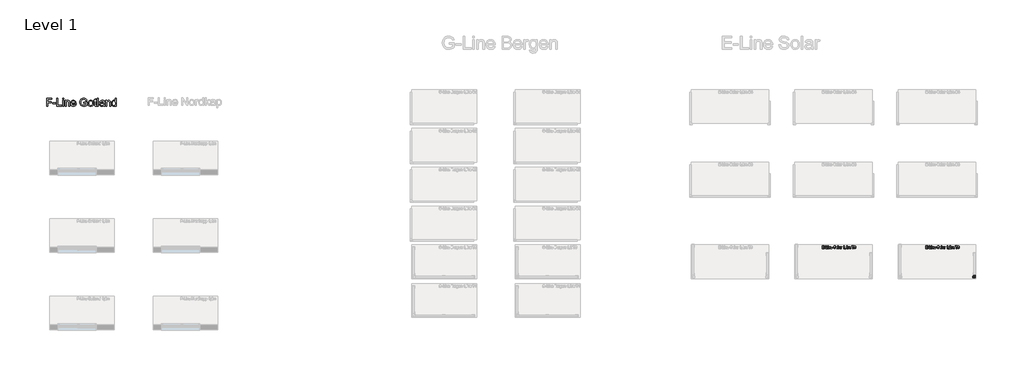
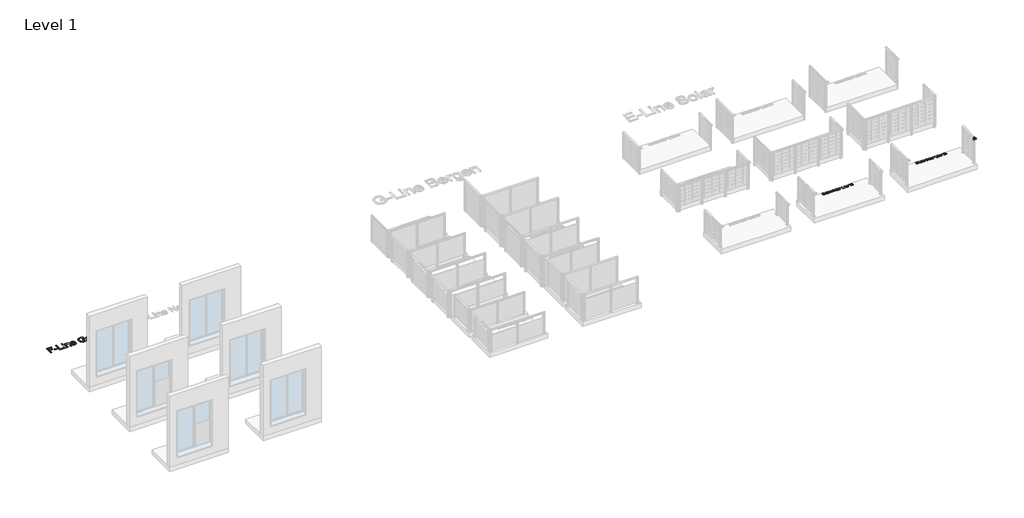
# One storey, part 55 of 66: 4 proxies.
"""IFC4 building model written with IfcOpenShell, lengths in millimetres."""

from ifc_helpers import new_model, si_unit, origin, origin_with_axes, place, context, project, spatial, polyline, outline, extrude, transform, mapped, element, save
from components import generic_models_b718ed85

model = new_model("IFC4")

# Units and contexts
model_context = context("Model", 3, world=origin())
ifc_project = project(units=[si_unit("LENGTHUNIT", "METRE", prefix="MILLI")], contexts=[model_context])

# Site, building, storey
site = spatial("IfcSite", under=ifc_project)
building = spatial("IfcBuilding", under=site)
storey = spatial("IfcBuildingStorey", under=building, Name="Level 1", Elevation=0.0)

# Proxies
placement = place(None, origin())
generic_models_shape = generic_models_b718ed85(model_context)
element("IfcBuildingElementProxy", 1, Name="Innore top rail 51x43 corner element : Innore top rail 51x43 element", ObjectType="Innore top rail 51x43 corner element : Innore top rail 51x43 element", at=placement, inside=storey, context=model_context, shape_type="MappedRepresentation", body=[
    mapped(generic_models_shape, transform((26236.5263105, -2920.1018151, 1200.0), x_axis=(0.0, -1.0, 0.0), y_axis=(1.0, 0.0, 0.0), z_axis=(0.0, 0.0, 1.0))),
])
element("IfcBuildingElementProxy", 2, Name="100mm Arial", ObjectType="100mm Arial", at=placement, inside=storey, context=model_context, shape_type="SweptSolid", body=[
    extrude(outline(polyline([(24354.036482, -1821.1184021), (24354.036482, -1720.6620919), (24426.2394549, -1720.6620919), (24426.2394549, -1733.2191307), (24366.5935207, -1733.2191307), (24366.5935207, -1763.0420978), (24423.1001952, -1763.0420978), (24423.1001952, -1775.5991365), (24366.5935207, -1775.5991365), (24366.5935207, -1808.5613633), (24427.8090847, -1808.5613633), (24427.8090847, -1821.1184021), (24354.036482, -1821.1184021)])), origin_with_axes(), (0.0, 0.0, 1.0), 10.0),
    extrude(outline(polyline([(24438.7964936, -1791.295435), (24438.7964936, -1778.7383962), (24478.0372398, -1778.7383962), (24478.0372398, -1791.295435), (24438.7964936, -1791.295435)])), origin_with_axes(), (0.0, 0.0, 1.0), 10.0),
    extrude(outline(polyline([(24493.7335383, -1821.1184021), (24493.7335383, -1720.6620919), (24506.290577, -1720.6620919), (24506.290577, -1808.5613633), (24556.5187321, -1808.5613633), (24556.5187321, -1821.1184021), (24493.7335383, -1821.1184021)])), origin_with_axes(), (0.0, 0.0, 1.0), 10.0),
    extrude(outline(polyline([(24569.0757709, -1733.2191307), (24569.0757709, -1720.6620919), (24581.6328096, -1720.6620919), (24581.6328096, -1733.2191307), (24569.0757709, -1733.2191307)])), origin_with_axes(), (0.0, 0.0, 1.0), 10.0),
    extrude(outline(polyline([(24569.0757709, -1821.1184021), (24569.0757709, -1747.3457993), (24581.6328096, -1747.3457993), (24581.6328096, -1821.1184021), (24569.0757709, -1821.1184021)])), origin_with_axes(), (0.0, 0.0, 1.0), 10.0),
    extrude(outline(polyline([(24600.4683678, -1821.1184021), (24600.4683678, -1747.3457993), (24613.0254066, -1747.3457993), (24613.0254066, -1757.6464952), (24622.6271266, -1748.7437509), (24635.7359884, -1745.7761695), (24647.5940514, -1748.1674024), (24655.6874553, -1754.4459218), (24659.4521144, -1763.6797599), (24660.1143019, -1775.8198657), (24660.1143019, -1821.1184021), (24647.5572632, -1821.1184021), (24647.5572632, -1777.5121229), (24646.1102607, -1766.4020867), (24640.9967009, -1760.5282375), (24632.3759995, -1758.3332082), (24618.752103, -1763.262827), (24614.4570807, -1770.405869), (24613.0254066, -1781.9757578), (24613.0254066, -1821.1184021), (24600.4683678, -1821.1184021)])), origin_with_axes(), (0.0, 0.0, 1.0), 10.0),
    extrude(outline(polyline([(24729.0308624, -1799.1435842), (24741.3426465, -1800.7132141), (24736.9066028, -1809.9899717), (24729.82794, -1816.9245473), (24720.2660738, -1821.2471608), (24708.3804197, -1822.6880319), (24693.6467458, -1820.2017628), (24682.309849, -1812.7429553), (24675.0809678, -1800.7959875), (24672.6713407, -1784.8452374), (24675.1054932, -1768.3579926), (24682.4079508, -1756.0278144), (24693.5915635, -1748.3390807), (24707.6691812, -1745.7761695), (24721.3084062, -1748.3329493), (24732.2069103, -1756.0032889), (24739.353018, -1768.3089417), (24741.7350539, -1784.771661), (24741.6614775, -1788.1561753), (24685.2283795, -1788.1561753), (24687.4019489, -1797.5555603), (24692.4511293, -1804.4656104), (24699.7382585, -1808.7146475), (24708.6256744, -1810.1309932), (24720.9374585, -1807.5067683), (24729.0308624, -1799.1435842)]), holes=[polyline([(24685.2283795, -1775.5991365), (24729.1780152, -1775.5991365), (24724.1502946, -1764.2193202), (24716.8294429, -1759.8047362), (24707.6201303, -1758.3332082), (24692.1568237, -1763.029835), (24687.2915843, -1768.5204738), (24685.2283795, -1775.5991365)])]), origin_with_axes(), (0.0, 0.0, 1.0), 10.0),
    extrude(outline(polyline([(24790.3935792, -1786.5865455), (24802.9506179, -1786.5865455), (24806.9973199, -1799.155847), (24816.8810828, -1807.1020981), (24831.9397192, -1810.1309932), (24845.0608437, -1807.8378621), (24853.5343923, -1801.5348172), (24856.3180327, -1793.1103195), (24854.2333681, -1785.274433), (24845.6985058, -1779.5722621), (24827.4147706, -1774.7775334), (24807.7330839, -1768.5848532), (24797.0522433, -1759.2406505), (24793.5328389, -1746.7571881), (24797.8861091, -1732.5446804), (24810.6025634, -1722.5137646), (24829.2173924, -1719.0924621), (24849.0830201, -1722.6731802), (24862.326772, -1733.1946052), (24867.3054416, -1748.9154292), (24854.7484029, -1748.9154292), (24852.443009, -1741.4228992), (24847.6360176, -1736.0150339), (24829.7079017, -1731.6495009), (24811.7307349, -1735.9659829), (24806.0898776, -1746.3893061), (24810.0875286, -1755.0958467), (24830.5908185, -1762.1101301), (24852.810891, -1768.4131749), (24864.9632596, -1778.5912434), (24868.8750715, -1792.7914885), (24864.3746484, -1807.8133366), (24851.4252022, -1818.77622), (24832.4302285, -1822.6880319), (24810.0016895, -1818.4696517), (24795.8137072, -1805.7654601), (24790.3935792, -1786.5865455)])), origin_with_axes(), (0.0, 0.0, 1.0), 10.0),
    extrude(outline(polyline([(24883.0017401, -1784.2321007), (24885.7179355, -1766.4450062), (24893.8665217, -1753.9431498), (24903.9342256, -1747.8179145), (24915.9884923, -1745.7761695), (24929.1801275, -1748.2624386), (24939.716881, -1755.7212461), (24946.6238655, -1767.5639806), (24948.9261936, -1783.2020311), (24944.8549662, -1805.544731), (24932.9969032, -1818.1876089), (24915.9884923, -1822.6880319), (24902.6374416, -1820.2109598), (24892.1129508, -1812.7797435), (24885.2795428, -1800.6886886), (24883.0017401, -1784.2321007)]), holes=[polyline([(24895.5587789, -1784.2075752), (24897.0119127, -1795.5720632), (24901.3713144, -1803.6685328), (24907.9318766, -1808.5153781), (24915.9884923, -1810.1309932), (24924.0083198, -1808.506181), (24930.5566193, -1803.6317446), (24934.916021, -1795.4279761), (24936.3691549, -1783.8151678), (24934.9068239, -1772.7817736), (24930.5198311, -1764.7956686), (24923.9623346, -1759.9488233), (24915.9884923, -1758.3332082), (24907.9318766, -1759.942692), (24901.3713144, -1764.7711432), (24897.0119127, -1772.8492186), (24895.5587789, -1784.2075752)])]), origin_with_axes(), (0.0, 0.0, 1.0), 10.0),
    extrude(outline(polyline([(24963.0528622, -1821.1184021), (24963.0528622, -1720.6620919), (24975.609901, -1720.6620919), (24975.609901, -1821.1184021), (24963.0528622, -1821.1184021)])), origin_with_axes(), (0.0, 0.0, 1.0), 10.0),
    extrude(outline(polyline([(25041.5343545, -1811.700623), (25029.3574605, -1820.2109598), (25015.9052422, -1822.6880319), (25005.4114083, -1821.1981098), (24997.670558, -1816.7283436), (24992.8972891, -1809.9409208), (24991.3061995, -1801.498029), (24993.7096952, -1791.5652151), (25000.0250028, -1784.354728), (25008.8173824, -1780.2344497), (25019.682164, -1778.3459888), (25041.4607781, -1774.0295067), (25041.5343545, -1771.2336035), (25038.0762638, -1761.9629773), (25024.1948498, -1758.3332082), (25011.4906583, -1760.7489667), (25005.4328681, -1769.3206172), (24992.8758293, -1767.7509873), (24998.3082201, -1755.4882541), (25009.2465781, -1748.3022925), (25025.8135306, -1745.7761695), (25041.0315825, -1748.0079869), (25049.6277584, -1753.612056), (25053.4782567, -1762.1346555), (25054.0913933, -1773.1220644), (25054.0913933, -1788.7447865), (25054.7290554, -1810.5601888), (25057.230653, -1821.1184021), (25044.6736142, -1821.1184021), (25041.5343545, -1811.700623)]), holes=[polyline([(25041.5343545, -1786.5865455), (25021.2763193, -1790.4370437), (25010.4728514, -1792.4726574), (25005.5800209, -1795.7835953), (25003.8632382, -1800.6151122), (25007.6033719, -1807.4086664), (25018.578518, -1810.1309932), (25031.2827096, -1807.1266235), (25039.4742154, -1799.8548228), (25041.4607781, -1790.1427381), (25041.5343545, -1786.5865455)])]), origin_with_axes(), (0.0, 0.0, 1.0), 10.0),
    extrude(outline(polyline([(25071.3573216, -1821.1184021), (25071.3573216, -1747.3457993), (25082.3447305, -1747.3457993), (25082.3447305, -1758.2596318), (25090.1438288, -1748.2041906), (25097.9919781, -1745.7761695), (25110.5980678, -1749.6511932), (25106.404213, -1760.9083822), (25097.5750451, -1758.3332082), (25090.4749226, -1760.8102803), (25085.9499741, -1767.6774109), (25083.9143604, -1782.3436398), (25083.9143604, -1821.1184021), (25071.3573216, -1821.1184021)])), origin_with_axes(), (0.0, 0.0, 1.0), 10.0),
    extrude(outline(polyline([(25201.6365988, -1821.1184021), (25189.0795601, -1821.1184021), (25189.0795601, -1742.8331135), (25177.1847089, -1751.3066621), (25163.9654825, -1757.6464952), (25163.9654825, -1745.7761695), (25182.371845, -1734.0284711), (25193.5431949, -1720.6620919), (25201.6365988, -1720.6620919), (25201.6365988, -1821.1184021)])), origin_with_axes(), (0.0, 0.0, 1.0), 10.0),
    extrude(outline(polyline([(25237.7380853, -1821.1184021), (25237.7380853, -1808.5613633), (25250.2951241, -1808.5613633), (25250.2951241, -1821.1184021), (25248.0387812, -1833.9574837), (25240.877345, -1841.5235901), (25237.7380853, -1836.8147005), (25242.348873, -1831.3945725), (25243.9920792, -1821.1184021), (25237.7380853, -1821.1184021)])), origin_with_axes(), (0.0, 0.0, 1.0), 10.0),
    extrude(outline(polyline([(25335.0551358, -1808.5613633), (25335.0551358, -1821.1184021), (25269.1306822, -1821.1184021), (25270.4795829, -1812.4609125), (25278.1070029, -1799.1313215), (25293.8278268, -1784.5754572), (25315.5083391, -1763.6552344), (25320.9284671, -1749.430464), (25315.8149074, -1737.9157575), (25302.460791, -1733.2191307), (25288.5425888, -1737.8053929), (25283.2573508, -1750.485059), (25270.7003121, -1748.9154292), (25273.7445356, -1736.769192), (25280.3265576, -1727.8971045), (25290.1030216, -1722.4708451), (25302.7305711, -1720.6620919), (25315.4500911, -1722.6731802), (25325.208161, -1728.7064449), (25331.4161697, -1737.7195538), (25333.4855059, -1748.6701745), (25331.2536885, -1760.5772884), (25323.8347349, -1772.8890725), (25305.8453053, -1790.0936872), (25291.3998057, -1802.1724793), (25285.7344229, -1808.5613633), (25335.0551358, -1808.5613633)])), origin_with_axes(), (0.0, 0.0, 1.0), 10.0),
    extrude(outline(polyline([(25350.7514342, -1821.1184021), (25350.7514342, -1747.3457993), (25363.308473, -1747.3457993), (25363.308473, -1759.4859052), (25371.9414371, -1749.5408286), (25384.2286958, -1745.7761695), (25396.81026, -1749.614405), (25403.7264415, -1760.3688219), (25413.5243653, -1749.4243326), (25425.8974631, -1745.7761695), (25435.336702, -1747.2936827), (25442.3172628, -1751.8462224), (25446.6306792, -1759.5564159), (25448.0684847, -1770.5468905), (25448.0684847, -1821.1184021), (25435.5114459, -1821.1184021), (25435.5114459, -1775.9424931), (25434.3464863, -1765.4578562), (25430.128106, -1760.2952455), (25422.9544071, -1758.3332082), (25410.6058348, -1763.3609288), (25406.9178178, -1769.903097), (25405.6884788, -1779.4741602), (25405.6884788, -1821.1184021), (25393.1314401, -1821.1184021), (25393.1314401, -1774.5445415), (25390.2251723, -1762.3799102), (25380.6970286, -1758.3332082), (25371.4018769, -1761.0310095), (25365.2214594, -1768.9282097), (25363.308473, -1783.9132696), (25363.308473, -1821.1184021), (25350.7514342, -1821.1184021)])), origin_with_axes(), (0.0, 0.0, 1.0), 10.0),
    extrude(outline(polyline([(25532.8284964, -1821.1184021), (25532.8284964, -1733.2191307), (25499.8662696, -1733.2191307), (25499.8662696, -1720.6620919), (25578.3477619, -1720.6620919), (25578.3477619, -1733.2191307), (25545.3855351, -1733.2191307), (25545.3855351, -1821.1184021), (25532.8284964, -1821.1184021)])), origin_with_axes(), (0.0, 0.0, 1.0), 10.0),
    extrude(outline(polyline([(25587.765541, -1794.4346947), (25600.3225797, -1792.8650649), (25607.251024, -1806.0842912), (25620.212733, -1810.1309932), (25628.8211716, -1808.7391729), (25635.467573, -1804.5637123), (25641.1329557, -1790.7804002), (25635.516624, -1777.7941658), (25621.2428025, -1772.6560806), (25612.4381601, -1774.0295067), (25613.8361117, -1761.4724679), (25615.8471999, -1761.6196207), (25630.0964959, -1758.0143772), (25634.8421736, -1753.4403777), (25636.4240662, -1746.9288664), (25631.837804, -1737.1064171), (25620.0165292, -1733.2191307), (25608.0481016, -1737.1432053), (25601.8922096, -1748.9154292), (25589.3351708, -1747.3457993), (25593.0323849, -1736.0702162), (25599.6113412, -1727.6518498), (25608.6121874, -1722.4095314), (25619.5750708, -1720.6620919), (25634.7195463, -1724.10792), (25645.3145478, -1733.525699), (25648.981105, -1746.1931024), (25645.4984888, -1757.7691225), (25635.1977929, -1766.0832556), (25648.8830031, -1774.6671688), (25653.6899945, -1791.0011294), (25651.2864988, -1803.2393371), (25644.0760117, -1813.4664566), (25633.192836, -1820.3826381), (25619.7712746, -1822.6880319), (25607.6311687, -1820.7198633), (25597.7474058, -1814.8153572), (25590.8741438, -1805.7838542), (25587.765541, -1794.4346947)])), origin_with_axes(), (0.0, 0.0, 1.0), 10.0),
])
element("IfcBuildingElementProxy", 3, Name="100mm Arial", ObjectType="100mm Arial", at=placement, inside=storey, context=model_context, shape_type="SweptSolid", body=[
    extrude(outline(polyline([(20354.036482, -1821.1184021), (20354.036482, -1720.6620919), (20426.2394549, -1720.6620919), (20426.2394549, -1733.2191307), (20366.5935207, -1733.2191307), (20366.5935207, -1763.0420978), (20423.1001952, -1763.0420978), (20423.1001952, -1775.5991365), (20366.5935207, -1775.5991365), (20366.5935207, -1808.5613633), (20427.8090847, -1808.5613633), (20427.8090847, -1821.1184021), (20354.036482, -1821.1184021)])), origin_with_axes(), (0.0, 0.0, 1.0), 10.0),
    extrude(outline(polyline([(20438.7964936, -1791.295435), (20438.7964936, -1778.7383962), (20478.0372398, -1778.7383962), (20478.0372398, -1791.295435), (20438.7964936, -1791.295435)])), origin_with_axes(), (0.0, 0.0, 1.0), 10.0),
    extrude(outline(polyline([(20493.7335383, -1821.1184021), (20493.7335383, -1720.6620919), (20506.290577, -1720.6620919), (20506.290577, -1808.5613633), (20556.5187321, -1808.5613633), (20556.5187321, -1821.1184021), (20493.7335383, -1821.1184021)])), origin_with_axes(), (0.0, 0.0, 1.0), 10.0),
    extrude(outline(polyline([(20569.0757709, -1733.2191307), (20569.0757709, -1720.6620919), (20581.6328096, -1720.6620919), (20581.6328096, -1733.2191307), (20569.0757709, -1733.2191307)])), origin_with_axes(), (0.0, 0.0, 1.0), 10.0),
    extrude(outline(polyline([(20569.0757709, -1821.1184021), (20569.0757709, -1747.3457993), (20581.6328096, -1747.3457993), (20581.6328096, -1821.1184021), (20569.0757709, -1821.1184021)])), origin_with_axes(), (0.0, 0.0, 1.0), 10.0),
    extrude(outline(polyline([(20600.4683678, -1821.1184021), (20600.4683678, -1747.3457993), (20613.0254066, -1747.3457993), (20613.0254066, -1757.6464952), (20622.6271266, -1748.7437509), (20635.7359884, -1745.7761695), (20647.5940514, -1748.1674024), (20655.6874553, -1754.4459218), (20659.4521144, -1763.6797599), (20660.1143019, -1775.8198657), (20660.1143019, -1821.1184021), (20647.5572632, -1821.1184021), (20647.5572632, -1777.5121229), (20646.1102607, -1766.4020867), (20640.9967009, -1760.5282375), (20632.3759995, -1758.3332082), (20618.752103, -1763.262827), (20614.4570807, -1770.405869), (20613.0254066, -1781.9757578), (20613.0254066, -1821.1184021), (20600.4683678, -1821.1184021)])), origin_with_axes(), (0.0, 0.0, 1.0), 10.0),
    extrude(outline(polyline([(20729.0308624, -1799.1435842), (20741.3426465, -1800.7132141), (20736.9066028, -1809.9899717), (20729.82794, -1816.9245473), (20720.2660738, -1821.2471608), (20708.3804197, -1822.6880319), (20693.6467458, -1820.2017628), (20682.309849, -1812.7429553), (20675.0809678, -1800.7959875), (20672.6713407, -1784.8452374), (20675.1054932, -1768.3579926), (20682.4079508, -1756.0278144), (20693.5915635, -1748.3390807), (20707.6691812, -1745.7761695), (20721.3084062, -1748.3329493), (20732.2069103, -1756.0032889), (20739.353018, -1768.3089417), (20741.7350539, -1784.771661), (20741.6614775, -1788.1561753), (20685.2283795, -1788.1561753), (20687.4019489, -1797.5555603), (20692.4511293, -1804.4656104), (20699.7382585, -1808.7146475), (20708.6256744, -1810.1309932), (20720.9374585, -1807.5067683), (20729.0308624, -1799.1435842)]), holes=[polyline([(20685.2283795, -1775.5991365), (20729.1780152, -1775.5991365), (20724.1502946, -1764.2193202), (20716.8294429, -1759.8047362), (20707.6201303, -1758.3332082), (20692.1568237, -1763.029835), (20687.2915843, -1768.5204738), (20685.2283795, -1775.5991365)])]), origin_with_axes(), (0.0, 0.0, 1.0), 10.0),
    extrude(outline(polyline([(20790.3935792, -1786.5865455), (20802.9506179, -1786.5865455), (20806.9973199, -1799.155847), (20816.8810828, -1807.1020981), (20831.9397192, -1810.1309932), (20845.0608437, -1807.8378621), (20853.5343923, -1801.5348172), (20856.3180327, -1793.1103195), (20854.2333681, -1785.274433), (20845.6985058, -1779.5722621), (20827.4147706, -1774.7775334), (20807.7330839, -1768.5848532), (20797.0522433, -1759.2406505), (20793.5328389, -1746.7571881), (20797.8861091, -1732.5446804), (20810.6025634, -1722.5137646), (20829.2173924, -1719.0924621), (20849.0830201, -1722.6731802), (20862.326772, -1733.1946052), (20867.3054416, -1748.9154292), (20854.7484029, -1748.9154292), (20852.443009, -1741.4228992), (20847.6360176, -1736.0150339), (20829.7079017, -1731.6495009), (20811.7307349, -1735.9659829), (20806.0898776, -1746.3893061), (20810.0875286, -1755.0958467), (20830.5908185, -1762.1101301), (20852.810891, -1768.4131749), (20864.9632596, -1778.5912434), (20868.8750715, -1792.7914885), (20864.3746484, -1807.8133366), (20851.4252022, -1818.77622), (20832.4302285, -1822.6880319), (20810.0016895, -1818.4696517), (20795.8137072, -1805.7654601), (20790.3935792, -1786.5865455)])), origin_with_axes(), (0.0, 0.0, 1.0), 10.0),
    extrude(outline(polyline([(20883.0017401, -1784.2321007), (20885.7179355, -1766.4450062), (20893.8665217, -1753.9431498), (20903.9342256, -1747.8179145), (20915.9884923, -1745.7761695), (20929.1801275, -1748.2624386), (20939.716881, -1755.7212461), (20946.6238655, -1767.5639806), (20948.9261936, -1783.2020311), (20944.8549662, -1805.544731), (20932.9969032, -1818.1876089), (20915.9884923, -1822.6880319), (20902.6374416, -1820.2109598), (20892.1129508, -1812.7797435), (20885.2795428, -1800.6886886), (20883.0017401, -1784.2321007)]), holes=[polyline([(20895.5587789, -1784.2075752), (20897.0119127, -1795.5720632), (20901.3713144, -1803.6685328), (20907.9318766, -1808.5153781), (20915.9884923, -1810.1309932), (20924.0083198, -1808.506181), (20930.5566193, -1803.6317446), (20934.916021, -1795.4279761), (20936.3691549, -1783.8151678), (20934.9068239, -1772.7817736), (20930.5198311, -1764.7956686), (20923.9623346, -1759.9488233), (20915.9884923, -1758.3332082), (20907.9318766, -1759.942692), (20901.3713144, -1764.7711432), (20897.0119127, -1772.8492186), (20895.5587789, -1784.2075752)])]), origin_with_axes(), (0.0, 0.0, 1.0), 10.0),
    extrude(outline(polyline([(20963.0528622, -1821.1184021), (20963.0528622, -1720.6620919), (20975.609901, -1720.6620919), (20975.609901, -1821.1184021), (20963.0528622, -1821.1184021)])), origin_with_axes(), (0.0, 0.0, 1.0), 10.0),
    extrude(outline(polyline([(21041.5343545, -1811.700623), (21029.3574605, -1820.2109598), (21015.9052422, -1822.6880319), (21005.4114083, -1821.1981098), (20997.670558, -1816.7283436), (20992.8972891, -1809.9409208), (20991.3061995, -1801.498029), (20993.7096952, -1791.5652151), (21000.0250028, -1784.354728), (21008.8173824, -1780.2344497), (21019.682164, -1778.3459888), (21041.4607781, -1774.0295067), (21041.5343545, -1771.2336035), (21038.0762638, -1761.9629773), (21024.1948498, -1758.3332082), (21011.4906583, -1760.7489667), (21005.4328681, -1769.3206172), (20992.8758293, -1767.7509873), (20998.3082201, -1755.4882541), (21009.2465781, -1748.3022925), (21025.8135306, -1745.7761695), (21041.0315825, -1748.0079869), (21049.6277584, -1753.612056), (21053.4782567, -1762.1346555), (21054.0913933, -1773.1220644), (21054.0913933, -1788.7447865), (21054.7290554, -1810.5601888), (21057.230653, -1821.1184021), (21044.6736142, -1821.1184021), (21041.5343545, -1811.700623)]), holes=[polyline([(21041.5343545, -1786.5865455), (21021.2763193, -1790.4370437), (21010.4728514, -1792.4726574), (21005.5800209, -1795.7835953), (21003.8632382, -1800.6151122), (21007.6033719, -1807.4086664), (21018.578518, -1810.1309932), (21031.2827096, -1807.1266235), (21039.4742154, -1799.8548228), (21041.4607781, -1790.1427381), (21041.5343545, -1786.5865455)])]), origin_with_axes(), (0.0, 0.0, 1.0), 10.0),
    extrude(outline(polyline([(21071.3573216, -1821.1184021), (21071.3573216, -1747.3457993), (21082.3447305, -1747.3457993), (21082.3447305, -1758.2596318), (21090.1438288, -1748.2041906), (21097.9919781, -1745.7761695), (21110.5980678, -1749.6511932), (21106.404213, -1760.9083822), (21097.5750451, -1758.3332082), (21090.4749226, -1760.8102803), (21085.9499741, -1767.6774109), (21083.9143604, -1782.3436398), (21083.9143604, -1821.1184021), (21071.3573216, -1821.1184021)])), origin_with_axes(), (0.0, 0.0, 1.0), 10.0),
    extrude(outline(polyline([(21201.6365988, -1821.1184021), (21189.0795601, -1821.1184021), (21189.0795601, -1742.8331135), (21177.1847089, -1751.3066621), (21163.9654825, -1757.6464952), (21163.9654825, -1745.7761695), (21182.371845, -1734.0284711), (21193.5431949, -1720.6620919), (21201.6365988, -1720.6620919), (21201.6365988, -1821.1184021)])), origin_with_axes(), (0.0, 0.0, 1.0), 10.0),
    extrude(outline(polyline([(21237.7380853, -1821.1184021), (21237.7380853, -1808.5613633), (21250.2951241, -1808.5613633), (21250.2951241, -1821.1184021), (21248.0387812, -1833.9574837), (21240.877345, -1841.5235901), (21237.7380853, -1836.8147005), (21242.348873, -1831.3945725), (21243.9920792, -1821.1184021), (21237.7380853, -1821.1184021)])), origin_with_axes(), (0.0, 0.0, 1.0), 10.0),
    extrude(outline(polyline([(21317.7892075, -1821.1184021), (21305.2321687, -1821.1184021), (21305.2321687, -1742.8331135), (21293.3373175, -1751.3066621), (21280.1180911, -1757.6464952), (21280.1180911, -1745.7761695), (21298.5244536, -1734.0284711), (21309.6958036, -1720.6620919), (21317.7892075, -1720.6620919), (21317.7892075, -1821.1184021)])), origin_with_axes(), (0.0, 0.0, 1.0), 10.0),
    extrude(outline(polyline([(21350.7514342, -1821.1184021), (21350.7514342, -1747.3457993), (21363.308473, -1747.3457993), (21363.308473, -1759.4859052), (21371.9414371, -1749.5408286), (21384.2286958, -1745.7761695), (21396.81026, -1749.614405), (21403.7264415, -1760.3688219), (21413.5243653, -1749.4243326), (21425.8974631, -1745.7761695), (21435.336702, -1747.2936827), (21442.3172628, -1751.8462224), (21446.6306792, -1759.5564159), (21448.0684847, -1770.5468905), (21448.0684847, -1821.1184021), (21435.5114459, -1821.1184021), (21435.5114459, -1775.9424931), (21434.3464863, -1765.4578562), (21430.128106, -1760.2952455), (21422.9544071, -1758.3332082), (21410.6058348, -1763.3609288), (21406.9178178, -1769.903097), (21405.6884788, -1779.4741602), (21405.6884788, -1821.1184021), (21393.1314401, -1821.1184021), (21393.1314401, -1774.5445415), (21390.2251723, -1762.3799102), (21380.6970286, -1758.3332082), (21371.4018769, -1761.0310095), (21365.2214594, -1768.9282097), (21363.308473, -1783.9132696), (21363.308473, -1821.1184021), (21350.7514342, -1821.1184021)])), origin_with_axes(), (0.0, 0.0, 1.0), 10.0),
    extrude(outline(polyline([(21532.8284964, -1821.1184021), (21532.8284964, -1733.2191307), (21499.8662696, -1733.2191307), (21499.8662696, -1720.6620919), (21578.3477619, -1720.6620919), (21578.3477619, -1733.2191307), (21545.3855351, -1733.2191307), (21545.3855351, -1821.1184021), (21532.8284964, -1821.1184021)])), origin_with_axes(), (0.0, 0.0, 1.0), 10.0),
    extrude(outline(polyline([(21587.765541, -1794.4346947), (21600.3225797, -1792.8650649), (21607.251024, -1806.0842912), (21620.212733, -1810.1309932), (21628.8211716, -1808.7391729), (21635.467573, -1804.5637123), (21641.1329557, -1790.7804002), (21635.516624, -1777.7941658), (21621.2428025, -1772.6560806), (21612.4381601, -1774.0295067), (21613.8361117, -1761.4724679), (21615.8471999, -1761.6196207), (21630.0964959, -1758.0143772), (21634.8421736, -1753.4403777), (21636.4240662, -1746.9288664), (21631.837804, -1737.1064171), (21620.0165292, -1733.2191307), (21608.0481016, -1737.1432053), (21601.8922096, -1748.9154292), (21589.3351708, -1747.3457993), (21593.0323849, -1736.0702162), (21599.6113412, -1727.6518498), (21608.6121874, -1722.4095314), (21619.5750708, -1720.6620919), (21634.7195463, -1724.10792), (21645.3145478, -1733.525699), (21648.981105, -1746.1931024), (21645.4984888, -1757.7691225), (21635.1977929, -1766.0832556), (21648.8830031, -1774.6671688), (21653.6899945, -1791.0011294), (21651.2864988, -1803.2393371), (21644.0760117, -1813.4664566), (21633.192836, -1820.3826381), (21619.7712746, -1822.6880319), (21607.6311687, -1820.7198633), (21597.7474058, -1814.8153572), (21590.8741438, -1805.7838542), (21587.765541, -1794.4346947)])), origin_with_axes(), (0.0, 0.0, 1.0), 10.0),
])
element("IfcBuildingElementProxy", 4, Name="300mm Arial", ObjectType="300mm Arial", at=placement, inside=storey, context=model_context, shape_type="SweptSolid", body=[
    extrude(outline(polyline([(-9619.7390142, 3677.6101672), (-9619.7390142, 3978.9790977), (-9417.2567641, 3978.9790977), (-9417.2567641, 3941.3079814), (-9582.0678979, 3941.3079814), (-9582.0678979, 3851.8390801), (-9440.8012118, 3851.8390801), (-9440.8012118, 3814.1679638), (-9582.0678979, 3814.1679638), (-9582.0678979, 3677.6101672), (-9619.7390142, 3677.6101672)])), origin_with_axes(), (0.0, 0.0, 1.0), 10.0),
    extrude(outline(polyline([(-9389.0034269, 3767.0790684), (-9389.0034269, 3804.7501847), (-9271.2811884, 3804.7501847), (-9271.2811884, 3767.0790684), (-9389.0034269, 3767.0790684)])), origin_with_axes(), (0.0, 0.0, 1.0), 10.0),
    extrude(outline(polyline([(-9224.192293, 3677.6101672), (-9224.192293, 3978.9790977), (-9186.5211767, 3978.9790977), (-9186.5211767, 3715.2812835), (-9035.8367115, 3715.2812835), (-9035.8367115, 3677.6101672), (-9224.192293, 3677.6101672)])), origin_with_axes(), (0.0, 0.0, 1.0), 10.0),
    extrude(outline(polyline([(-8998.1655952, 3941.3079814), (-8998.1655952, 3978.9790977), (-8960.4944789, 3978.9790977), (-8960.4944789, 3941.3079814), (-8998.1655952, 3941.3079814)])), origin_with_axes(), (0.0, 0.0, 1.0), 10.0),
    extrude(outline(polyline([(-8998.1655952, 3677.6101672), (-8998.1655952, 3898.9279755), (-8960.4944789, 3898.9279755), (-8960.4944789, 3677.6101672), (-8998.1655952, 3677.6101672)])), origin_with_axes(), (0.0, 0.0, 1.0), 10.0),
    extrude(outline(polyline([(-8903.9878044, 3677.6101672), (-8903.9878044, 3898.9279755), (-8866.3166881, 3898.9279755), (-8866.3166881, 3868.0258879), (-8853.2292861, 3883.6056904), (-8837.5115279, 3894.7341208), (-8819.1634134, 3901.411179), (-8798.1849426, 3903.6368651), (-8779.6160989, 3901.8434403), (-8762.6107537, 3896.4631661), (-8748.4289028, 3888.1674272), (-8738.330542, 3877.627608), (-8727.0365647, 3849.9260938), (-8725.050002, 3813.5057762), (-8725.050002, 3677.6101672), (-8762.7211183, 3677.6101672), (-8762.7211183, 3808.4290047), (-8767.0621258, 3841.7591135), (-8773.0677994, 3851.6827303), (-8782.402805, 3859.380661), (-8794.3681669, 3864.3194768), (-8808.2649093, 3865.9657487), (-8830.3286319, 3862.2685347), (-8849.1365989, 3851.1768925), (-8856.652888, 3842.1223969), (-8862.0216658, 3829.7477663), (-8866.3166881, 3795.0381001), (-8866.3166881, 3677.6101672), (-8903.9878044, 3677.6101672)])), origin_with_axes(), (0.0, 0.0, 1.0), 10.0),
    extrude(outline(polyline([(-8518.3003207, 3743.5346208), (-8481.3649684, 3738.8257312), (-8494.6730995, 3710.9954583), (-8515.9090877, 3690.1917315), (-8544.5946863, 3677.2238911), (-8580.2516487, 3672.9012777), (-8603.6259509, 3674.7659795), (-8624.4526704, 3680.3600851), (-8642.731807, 3689.6835944), (-8658.4633608, 3702.7365075), (-8671.113903, 3719.1555408), (-8680.1500045, 3738.5774109), (-8685.5716654, 3761.0021177), (-8687.3788857, 3786.4296614), (-8685.5532713, 3812.7194285), (-8680.0764281, 3835.8913956), (-8670.9483561, 3855.9455629), (-8658.1690552, 3872.8819303), (-8642.4788882, 3886.3372142), (-8624.6182173, 3895.9481314), (-8604.5870427, 3901.7146816), (-8582.3853642, 3903.6368651), (-8560.8987565, 3901.7192802), (-8541.4676893, 3895.9665255), (-8524.0921628, 3886.378601), (-8508.772177, 3872.9555067), (-8496.2664884, 3856.0559275), (-8487.3338537, 3836.0385484), (-8481.9742729, 3812.9033695), (-8480.187746, 3786.6503906), (-8480.4084752, 3776.4968475), (-8649.7077694, 3776.4968475), (-8643.187061, 3748.2986926), (-8628.0395198, 3727.5685422), (-8606.1781323, 3714.821431), (-8579.5158847, 3710.572394), (-8559.4663159, 3712.5405627), (-8542.5805324, 3718.4450687), (-8528.8585339, 3728.653794), (-8518.3003207, 3743.5346208)]), holes=[polyline([(-8649.7077694, 3814.1679638), (-8517.8588623, 3814.1679638), (-8522.9540279, 3834.0703798), (-8532.9420241, 3848.307413), (-8554.9045792, 3861.5511648), (-8582.532517, 3865.9657487), (-8607.9255718, 3862.4432786), (-8628.9224366, 3851.8758683), (-8643.5181548, 3835.403952), (-8649.7077694, 3814.1679638)])]), origin_with_axes(), (0.0, 0.0, 1.0), 10.0),
    extrude(outline(polyline([(-8178.8188155, 3795.3324057), (-8178.8188155, 3833.003522), (-8056.3876875, 3833.003522), (-8056.3876875, 3720.3580551), (-8086.1401439, 3699.6646928), (-8116.8306993, 3684.8206543), (-8148.3857775, 3675.8811218), (-8180.7318019, 3672.9012777), (-8222.9922461, 3677.6377584), (-8261.1875943, 3691.8472004), (-8292.9174163, 3715.0329632), (-8315.7812823, 3746.6984059), (-8329.6044483, 3784.6822219), (-8334.2121703, 3826.8231045), (-8329.6228424, 3869.2674897), (-8315.8548587, 3908.7504248), (-8293.4784364, 3941.8690014), (-8263.0637924, 3965.220311), (-8226.0180755, 3979.0710682), (-8183.7484343, 3983.6879872), (-8152.717588, 3981.0116457), (-8124.8137386, 3972.9826211), (-8101.3152762, 3960.1803277), (-8083.5005906, 3943.1841795), (-8070.3212181, 3921.1756392), (-8060.7286951, 3893.3361692), (-8095.4567554, 3883.5505081), (-8103.2098685, 3903.4069388), (-8112.6368446, 3918.3889331), (-8125.1080442, 3929.6829103), (-8141.9938278, 3938.47529), (-8162.12617, 3944.1314757), (-8184.3370455, 3946.0168709), (-8210.3371055, 3943.9843229), (-8232.566375, 3937.8866788), (-8250.9420807, 3928.4872938), (-8265.381449, 3916.5495231), (-8284.7688301, 3887.5236337), (-8293.597998, 3859.0863554), (-8296.541054, 3828.3682088), (-8293.0001898, 3792.3433645), (-8282.3775972, 3762.7012727), (-8264.9951729, 3739.6534657), (-8241.1748137, 3723.4114756), (-8213.2985555, 3713.7821644), (-8183.7484343, 3710.572394), (-8157.6564038, 3712.9912181), (-8132.2081667, 3720.2476905), (-8110.1076559, 3730.2448837), (-8094.0588038, 3740.8858704), (-8094.0588038, 3795.3324057), (-8178.8188155, 3795.3324057)])), origin_with_axes(), (0.0, 0.0, 1.0), 10.0),
    extrude(outline(polyline([(-8009.2987922, 3788.2690714), (-8007.2616456, 3816.9316773), (-8001.150206, 3841.6303548), (-7990.9644732, 3862.3651037), (-7976.7044474, 3879.1359242), (-7962.3478525, 3889.8550858), (-7946.5013356, 3897.5116298), (-7929.1648966, 3902.1055562), (-7910.3385355, 3903.6368651), (-7889.555502, 3901.7721632), (-7870.7636298, 3896.1780576), (-7853.962919, 3886.8545483), (-7839.1533694, 3873.8016352), (-7827.0661466, 3857.4607769), (-7818.432416, 3838.2734316), (-7813.2521777, 3816.2395993), (-7811.5254315, 3791.3592801), (-7814.5788521, 3753.3018877), (-7823.7391138, 3724.3311806), (-7838.7395021, 3702.6353399), (-7859.3133027, 3686.4025469), (-7883.7498643, 3676.276595), (-7910.3385355, 3672.9012777), (-7931.4250716, 3674.7590818), (-7950.3916877, 3680.332494), (-7967.2383838, 3689.6215144), (-7981.9651599, 3702.6261429), (-7993.923624, 3719.1256504), (-8002.4653841, 3738.8993076), (-8007.5904401, 3761.9471146), (-8009.2987922, 3788.2690714)]), holes=[polyline([(-7971.6276758, 3788.3426478), (-7967.2682742, 3754.2491839), (-7954.1900693, 3729.9597751), (-7934.5083825, 3715.4192393), (-7910.3385355, 3710.572394), (-7886.279053, 3715.4468304), (-7866.6341544, 3730.0701397), (-7853.5559495, 3754.6814452), (-7849.1965479, 3789.5198701), (-7853.5835406, 3822.6200527), (-7866.744519, 3846.5783676), (-7886.4170087, 3861.1189035), (-7910.3385355, 3865.9657487), (-7934.5083825, 3861.1372976), (-7954.1900693, 3846.651944), (-7967.2682742, 3822.4177176), (-7971.6276758, 3788.3426478)])]), origin_with_axes(), (0.0, 0.0, 1.0), 10.0),
    extrude(outline(polyline([(-7689.0943036, 3709.0272896), (-7684.385414, 3676.5065212), (-7712.5651748, 3672.9012777), (-7730.6465749, 3674.4647762), (-7744.12945, 3679.1552716), (-7753.6575937, 3686.3841528), (-7759.8747994, 3695.5628086), (-7763.296102, 3711.3265521), (-7764.4365362, 3738.3106964), (-7764.4365362, 3861.2568592), (-7792.6898734, 3861.2568592), (-7792.6898734, 3898.9279755), (-7764.4365362, 3898.9279755), (-7764.4365362, 3952.7123232), (-7726.7654199, 3974.8588193), (-7726.7654199, 3898.9279755), (-7689.0943036, 3898.9279755), (-7689.0943036, 3861.2568592), (-7726.7654199, 3861.2568592), (-7726.7654199, 3739.4143424), (-7724.7788571, 3719.9901731), (-7718.3409222, 3713.1107798), (-7705.5018405, 3710.572394), (-7689.0943036, 3709.0272896)])), origin_with_axes(), (0.0, 0.0, 1.0), 10.0),
    extrude(outline(polyline([(-7651.4231872, 3677.6101672), (-7651.4231872, 3978.9790977), (-7613.7520709, 3978.9790977), (-7613.7520709, 3677.6101672), (-7651.4231872, 3677.6101672)])), origin_with_axes(), (0.0, 0.0, 1.0), 10.0),
    extrude(outline(polyline([(-7415.9787103, 3705.8635044), (-7433.9773369, 3690.4308547), (-7452.5093925, 3680.332494), (-7471.9979412, 3674.7590818), (-7492.8660473, 3672.9012777), (-7524.3475491, 3677.3710439), (-7547.5701, 3690.7803426), (-7561.8899067, 3711.1426111), (-7566.6631756, 3736.4712864), (-7564.8605538, 3752.0878771), (-7559.4526885, 3766.2697281), (-7551.1109642, 3778.4098339), (-7540.5067657, 3787.9011894), (-7514.1296266, 3800.2620244), (-7481.5352819, 3805.9274071), (-7443.018037, 3811.8870955), (-7416.1994395, 3818.8768534), (-7415.9787103, 3827.2645629), (-7418.5722784, 3844.07677), (-7426.3529826, 3855.0764417), (-7443.753801, 3863.243422), (-7467.9972245, 3865.9657487), (-7490.4380262, 3864.1539299), (-7506.1097992, 3858.7184734), (-7516.7967711, 3848.6660979), (-7524.2831697, 3833.003522), (-7561.954286, 3837.7124115), (-7555.4151836, 3858.3138032), (-7545.6571136, 3874.500611), (-7531.7695683, 3886.8798402), (-7512.8420397, 3896.058496), (-7489.6930651, 3901.7422728), (-7463.1411821, 3903.6368651), (-7437.674551, 3901.963002), (-7417.4870265, 3896.9414127), (-7402.265909, 3889.3906348), (-7391.6984987, 3880.1292056), (-7384.6903466, 3868.6788785), (-7380.147004, 3854.5614069), (-7378.307594, 3821.5991801), (-7378.307594, 3774.7310139), (-7376.3946077, 3709.284807), (-7368.889815, 3677.6101672), (-7406.5609313, 3677.6101672), (-7415.9787103, 3705.8635044)]), holes=[polyline([(-7415.9787103, 3781.2057371), (-7476.7528159, 3769.6542424), (-7509.1632197, 3763.5474013), (-7523.8417113, 3753.6145874), (-7528.9920593, 3739.1200368), (-7526.186959, 3727.9180301), (-7517.7716584, 3718.7393743), (-7503.9300983, 3712.6141391), (-7484.8462198, 3710.572394), (-7464.6127101, 3712.8256712), (-7446.7336451, 3719.5855029), (-7432.2390945, 3729.5459079), (-7422.1591279, 3741.4009052), (-7417.6893616, 3753.6145874), (-7416.1994395, 3770.5371592), (-7415.9787103, 3781.2057371)])]), origin_with_axes(), (0.0, 0.0, 1.0), 10.0),
    extrude(outline(polyline([(-7326.5098091, 3677.6101672), (-7326.5098091, 3898.9279755), (-7288.8386928, 3898.9279755), (-7288.8386928, 3868.0258879), (-7275.7512908, 3883.6056904), (-7260.0335326, 3894.7341208), (-7241.6854181, 3901.411179), (-7220.7069473, 3903.6368651), (-7202.1381036, 3901.8434403), (-7185.1327584, 3896.4631661), (-7170.9509074, 3888.1674272), (-7160.8525467, 3877.627608), (-7149.5585694, 3849.9260938), (-7147.5720067, 3813.5057762), (-7147.5720067, 3677.6101672), (-7185.243123, 3677.6101672), (-7185.243123, 3808.4290047), (-7189.5841305, 3841.7591135), (-7195.5898041, 3851.6827303), (-7204.9248097, 3859.380661), (-7216.8901716, 3864.3194768), (-7230.786914, 3865.9657487), (-7252.8506366, 3862.2685347), (-7271.6586036, 3851.1768925), (-7279.1748926, 3842.1223969), (-7284.5436705, 3829.7477663), (-7288.8386928, 3795.0381001), (-7288.8386928, 3677.6101672), (-7326.5098091, 3677.6101672)])), origin_with_axes(), (0.0, 0.0, 1.0), 10.0),
    extrude(outline(polyline([(-6959.2164251, 3677.6101672), (-6959.2164251, 3713.1475679), (-6970.4874098, 3695.539816), (-6984.1404303, 3682.9628502), (-7000.1754868, 3675.4166708), (-7018.5925791, 3672.9012777), (-7042.9463672, 3676.5433094), (-7065.2400161, 3687.4694047), (-7084.1123625, 3704.9162083), (-7098.2022429, 3728.1203652), (-7106.9762285, 3756.1437761), (-7109.9008903, 3788.0483422), (-7107.2061547, 3819.5574351), (-7099.1219479, 3848.0131074), (-7085.6574669, 3871.7966784), (-7066.8219087, 3889.2894672), (-7044.0408162, 3900.0500156), (-7018.7397319, 3903.6368651), (-7000.308844, 3901.0708881), (-6984.0116716, 3893.3729574), (-6970.1977027, 3881.5731424), (-6959.2164251, 3866.7015127), (-6959.2164251, 3978.9790977), (-6921.5453088, 3978.9790977), (-6921.5453088, 3677.6101672), (-6959.2164251, 3677.6101672)]), holes=[polyline([(-7072.229774, 3788.195495), (-7067.980737, 3754.1204252), (-7055.2336259, 3729.8861987), (-7036.7107674, 3715.4008452), (-7015.1344884, 3710.572394), (-6993.5674064, 3715.180116), (-6975.5135975, 3729.0032819), (-6963.2907182, 3752.2994093), (-6959.2164251, 3785.3260154), (-6963.3642946, 3821.4336332), (-6975.8079031, 3846.468003), (-6994.3215645, 3861.0913123), (-7016.6795928, 3865.9657487), (-7038.476601, 3861.2844504), (-7056.3372718, 3847.2405552), (-7068.2566485, 3823.1166934), (-7072.229774, 3788.195495)])]), origin_with_axes(), (0.0, 0.0, 1.0), 10.0),
])

save(model, "model.ifc")
